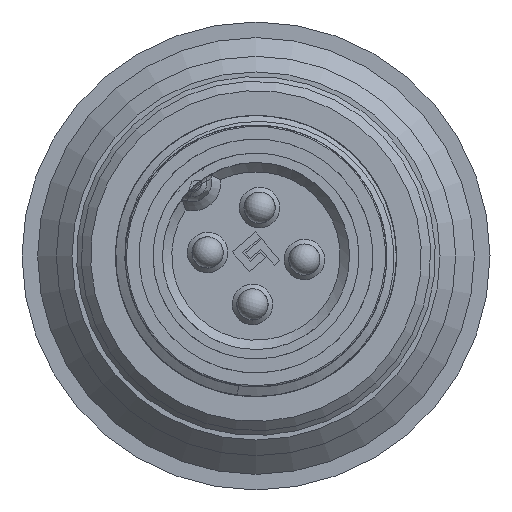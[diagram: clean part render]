
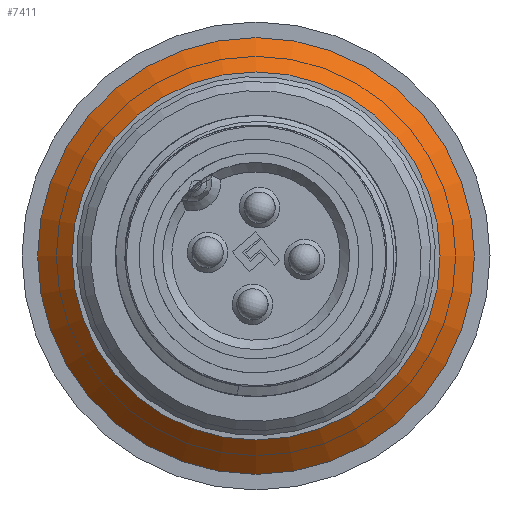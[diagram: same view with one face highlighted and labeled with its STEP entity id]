
A CAD part, left-side view. The second image highlights one B-rep face of the part: STEP entity #7411.
In plain terms, the highlighted conical face has half-angle 45 degrees and reference radius 7 mm.
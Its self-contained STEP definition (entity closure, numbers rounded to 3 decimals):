
#28 = EDGE_LOOP ( 'NONE', ( #5592 ) ) ;
#148 = DIRECTION ( 'NONE',  ( -1., 0., 0. ) ) ;
#1108 = CIRCLE ( 'NONE', #7150, 7. ) ;
#1260 = VERTEX_POINT ( 'NONE', #4822 ) ;
#1318 = CARTESIAN_POINT ( 'NONE',  ( -5.9, 0., 0. ) ) ;
#1842 = CONICAL_SURFACE ( 'NONE', #6361, 7., 0.785 ) ;
#2529 = DIRECTION ( 'NONE',  ( -1., 0., 0. ) ) ;
#2721 = DIRECTION ( 'NONE',  ( 0., -1., 0. ) ) ;
#3517 = ORIENTED_EDGE ( 'NONE', *, *, #9518, .F. ) ;
#4313 = CIRCLE ( 'NONE', #7719, 5.9 ) ;
#4352 = DIRECTION ( 'NONE',  ( 0., 1., 0. ) ) ;
#4722 = DIRECTION ( 'NONE',  ( 0., 1., 0. ) ) ;
#4822 = CARTESIAN_POINT ( 'NONE',  ( -7., 1.1, 0. ) ) ;
#5592 = ORIENTED_EDGE ( 'NONE', *, *, #9581, .F. ) ;
#6330 = DIRECTION ( 'NONE',  ( -1., 0., 0. ) ) ;
#6361 = AXIS2_PLACEMENT_3D ( 'NONE', #7469, #4722, #148 ) ;
#7150 = AXIS2_PLACEMENT_3D ( 'NONE', #8858, #4352, #2529 ) ;
#7411 = ADVANCED_FACE ( 'NONE', ( #8227, #9360 ), #1842, .T. ) ;
#7469 = CARTESIAN_POINT ( 'NONE',  ( 0., 1.1, 0. ) ) ;
#7517 = CARTESIAN_POINT ( 'NONE',  ( 0., 0., 0. ) ) ;
#7719 = AXIS2_PLACEMENT_3D ( 'NONE', #7517, #2721, #6330 ) ;
#8227 = FACE_BOUND ( 'NONE', #11034, .T. ) ;
#8858 = CARTESIAN_POINT ( 'NONE',  ( 0., 1.1, 0. ) ) ;
#9360 = FACE_OUTER_BOUND ( 'NONE', #28, .T. ) ;
#9518 = EDGE_CURVE ( 'NONE', #11099, #11099, #4313, .T. ) ;
#9581 = EDGE_CURVE ( 'NONE', #1260, #1260, #1108, .T. ) ;
#11034 = EDGE_LOOP ( 'NONE', ( #3517 ) ) ;
#11099 = VERTEX_POINT ( 'NONE', #1318 ) ;
